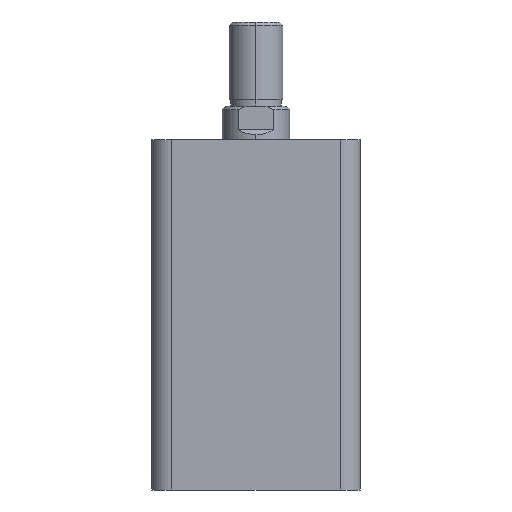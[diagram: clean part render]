
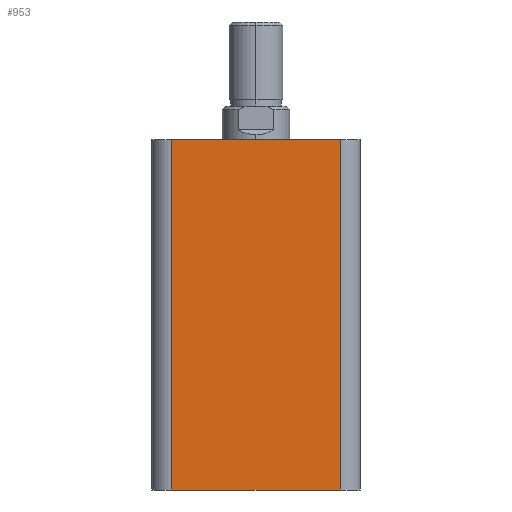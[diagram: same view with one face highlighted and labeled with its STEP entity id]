
A CAD part, left-side view. The second image highlights one B-rep face of the part: STEP entity #953.
In plain terms, the highlighted planar face has unit normal (-1, 0, 0).
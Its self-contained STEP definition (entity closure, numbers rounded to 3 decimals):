
#197 = FACE_OUTER_BOUND ( 'NONE', #3092, .T. ) ;
#391 = CARTESIAN_POINT ( 'NONE',  ( -31., -25., 104. ) ) ;
#552 = CARTESIAN_POINT ( 'NONE',  ( -31., 31., 104. ) ) ;
#553 = DIRECTION ( 'NONE',  ( 0., -1., 0. ) ) ;
#817 = CARTESIAN_POINT ( 'NONE',  ( -31., 31., 104. ) ) ;
#818 = DIRECTION ( 'NONE',  ( 1., 0., 0. ) ) ;
#820 = DIRECTION ( 'NONE',  ( 0., 0., -1. ) ) ;
#953 = ADVANCED_FACE ( 'NONE', ( #197 ), #1632, .F. ) ;
#1004 = VERTEX_POINT ( 'NONE', #391 ) ;
#1169 = DIRECTION ( 'NONE',  ( 0., -1., 0. ) ) ;
#1173 = CARTESIAN_POINT ( 'NONE',  ( -31., 31., 0. ) ) ;
#1215 = CARTESIAN_POINT ( 'NONE',  ( -31., 25., 104. ) ) ;
#1216 = DIRECTION ( 'NONE',  ( 0., 0., -1. ) ) ;
#1221 = CARTESIAN_POINT ( 'NONE',  ( -31., -25., 104. ) ) ;
#1222 = DIRECTION ( 'NONE',  ( 0., 0., 1. ) ) ;
#1302 = CARTESIAN_POINT ( 'NONE',  ( -31., 25., 104. ) ) ;
#1319 = CARTESIAN_POINT ( 'NONE',  ( -31., 25., 0. ) ) ;
#1431 = CARTESIAN_POINT ( 'NONE',  ( -31., -25., 0. ) ) ;
#1632 = PLANE ( 'NONE',  #2765 ) ;
#2036 = EDGE_CURVE ( 'NONE', #3927, #1004, #4031, .T. ) ;
#2289 = EDGE_CURVE ( 'NONE', #5046, #5160, #4394, .T. ) ;
#2302 = EDGE_CURVE ( 'NONE', #3927, #5046, #4421, .T. ) ;
#2305 = EDGE_CURVE ( 'NONE', #5160, #1004, #4427, .T. ) ;
#2765 = AXIS2_PLACEMENT_3D ( 'NONE', #817, #818, #820 ) ;
#3092 = EDGE_LOOP ( 'NONE', ( #3474, #3475, #3476, #3477 ) ) ;
#3474 = ORIENTED_EDGE ( 'NONE', *, *, #2289, .T. ) ;
#3475 = ORIENTED_EDGE ( 'NONE', *, *, #2305, .T. ) ;
#3476 = ORIENTED_EDGE ( 'NONE', *, *, #2036, .F. ) ;
#3477 = ORIENTED_EDGE ( 'NONE', *, *, #2302, .T. ) ;
#3927 = VERTEX_POINT ( 'NONE', #1302 ) ;
#4031 = LINE ( 'NONE', #552, #4033 ) ;
#4033 = VECTOR ( 'NONE', #553, 1000. ) ;
#4394 = LINE ( 'NONE', #1173, #4403 ) ;
#4403 = VECTOR ( 'NONE', #1169, 1000. ) ;
#4421 = LINE ( 'NONE', #1215, #4424 ) ;
#4424 = VECTOR ( 'NONE', #1216, 1000. ) ;
#4427 = LINE ( 'NONE', #1221, #4430 ) ;
#4430 = VECTOR ( 'NONE', #1222, 1000. ) ;
#5046 = VERTEX_POINT ( 'NONE', #1319 ) ;
#5160 = VERTEX_POINT ( 'NONE', #1431 ) ;
